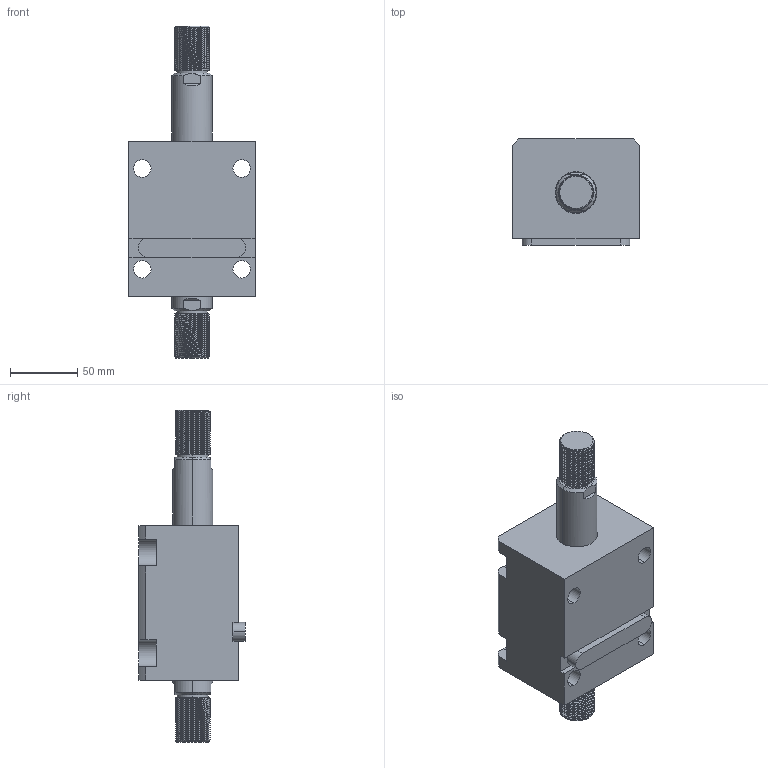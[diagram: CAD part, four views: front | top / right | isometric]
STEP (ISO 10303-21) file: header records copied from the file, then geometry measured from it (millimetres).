
FILE_DESCRIPTION (( 'STEP AP203' ), '1' );
FILE_NAME ('CHTB-LW50-40W.STEP', '2018-05-18T07:42:20', ( '' ), ( '' ), 'SwSTEP 2.0', 'SolidWorks 2015', '' );
FILE_SCHEMA (( 'CONFIG_CONTROL_DESIGN' ));
Length unit declared in the file: millimetre
Products named in the file (4): CHTM-SDMA50QG; CHTB-LW50-40W; 掛极LW50-40W; 活塞杆LW50-40W
Assembly tree (3 placements, depth 2):
  CHTB-LW50-40W
    掛极LW50-40W
    活塞杆LW50-40W
    CHTM-SDMA50QG
Bounding box: 94 x 79 x 247 mm (x, y, z)
Volume: 772865.5 mm3; surface area: 127165.8 mm2
Topology: 3 solids, 3 shells, 310 faces, 854 edges, 568 vertices
Faces by surface type: cylinder 186, plane 63, cone 27, bspline 18, torus 16
Entity records: 19510 total; most frequent: CARTESIAN_POINT 11940, ORIENTED_EDGE 1700, DIRECTION 1310, EDGE_CURVE 850, VERTEX_POINT 568, AXIS2_PLACEMENT_3D 503, EDGE_LOOP 348, FACE_OUTER_BOUND 310
